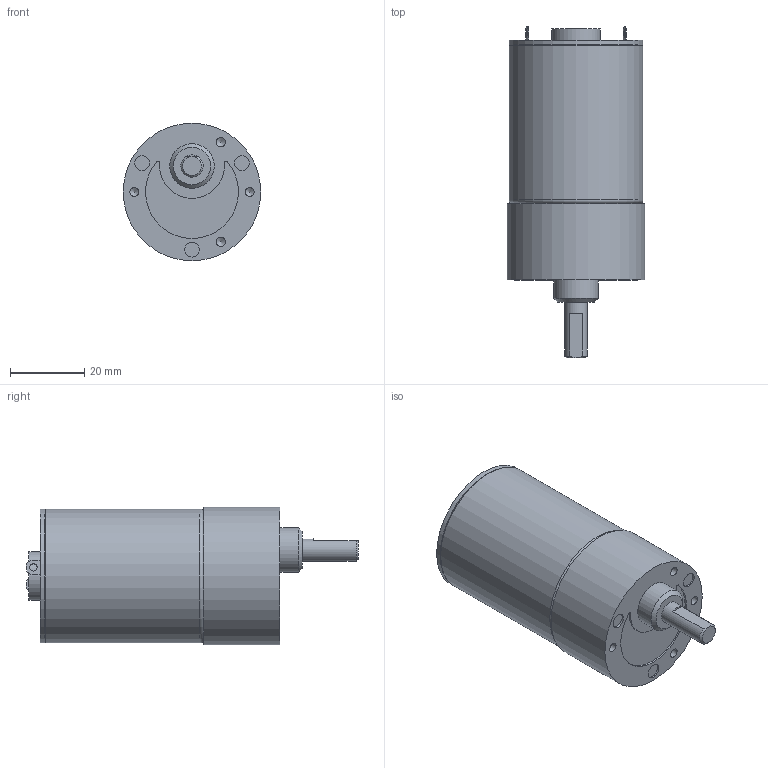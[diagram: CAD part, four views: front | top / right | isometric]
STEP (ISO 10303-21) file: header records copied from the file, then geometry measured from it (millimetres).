
FILE_DESCRIPTION((''),'2;1');
FILE_NAME('C:\Documents and Settings\SSEGAWA\デスクトップ\TP-3644D-KG-2.STP','2013-07-25T10:57:42',('SSEGAWA'),(''),'Autodesk Inventor 2010','Autodesk Inventor 2010','');
FILE_SCHEMA(('CONFIG_CONTROL_DESIGN'));
Length unit declared in the file: millimetre
Products named in the file (1): tp_3644dh_kg-2_Shrinkwrap_1
Bounding box: 37 x 89.3 x 37 mm (x, y, z)
Volume: 67980.4 mm3; surface area: 10653.8 mm2
Topology: 1 solids, 4 shells, 64 faces, 136 edges, 91 vertices
Faces by surface type: plane 27, cylinder 18, bspline 16, cone 2, torus 1
Full cylindrical faces by diameter (mm): 3 x1, 3.5 x1, 4 x3, 6 x1, 12 x1, 13 x1, 35.6 x1, 36 x2, 37 x1
Entity records: 1730 total; most frequent: CARTESIAN_POINT 500, DIRECTION 241, ORIENTED_EDGE 174, EDGE_LOOP 109, AXIS2_PLACEMENT_3D 107, EDGE_CURVE 87, VERTEX_POINT 72, STYLED_ITEM 65
